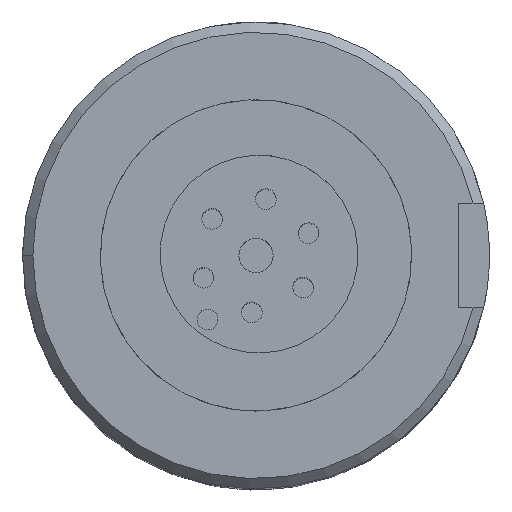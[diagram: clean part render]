
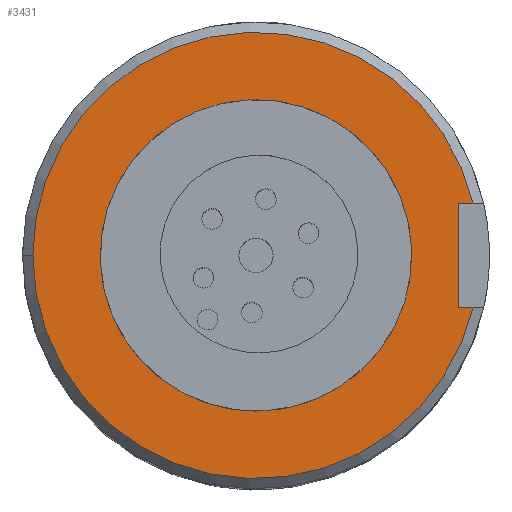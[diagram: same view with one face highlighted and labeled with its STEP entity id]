
A CAD part, top view. The second image highlights one B-rep face of the part: STEP entity #3431.
In plain terms, the highlighted planar face has unit normal (0, 0, 1).
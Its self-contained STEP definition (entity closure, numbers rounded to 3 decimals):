
#19 = CARTESIAN_POINT ( 'NONE',  ( -30., 0., 111. ) ) ;
#63 = CARTESIAN_POINT ( 'NONE',  ( 39., -10., 111. ) ) ;
#166 = DIRECTION ( 'NONE',  ( 1., 0., 0. ) ) ;
#172 = VERTEX_POINT ( 'NONE', #19 ) ;
#187 = DIRECTION ( 'NONE',  ( 0., 0., 1. ) ) ;
#241 = ORIENTED_EDGE ( 'NONE', *, *, #3611, .T. ) ;
#294 = ORIENTED_EDGE ( 'NONE', *, *, #1451, .F. ) ;
#314 = DIRECTION ( 'NONE',  ( 0., 1., 0. ) ) ;
#393 = EDGE_CURVE ( 'NONE', #1418, #3377, #1236, .T. ) ;
#476 = CARTESIAN_POINT ( 'NONE',  ( 0., 0., 111. ) ) ;
#487 = VECTOR ( 'NONE', #2778, 1000. ) ;
#519 = CIRCLE ( 'NONE', #990, 43. ) ;
#584 = ORIENTED_EDGE ( 'NONE', *, *, #1463, .F. ) ;
#720 = CARTESIAN_POINT ( 'NONE',  ( -43., 0., 111. ) ) ;
#724 = CARTESIAN_POINT ( 'NONE',  ( 30., 0., 111. ) ) ;
#842 = ORIENTED_EDGE ( 'NONE', *, *, #1155, .T. ) ;
#874 = VERTEX_POINT ( 'NONE', #3585 ) ;
#884 = FACE_OUTER_BOUND ( 'NONE', #909, .T. ) ;
#909 = EDGE_LOOP ( 'NONE', ( #3503, #842, #241, #3306, #1497 ) ) ;
#917 = CARTESIAN_POINT ( 'NONE',  ( 0., 0., 111. ) ) ;
#985 = AXIS2_PLACEMENT_3D ( 'NONE', #917, #2036, #1212 ) ;
#990 = AXIS2_PLACEMENT_3D ( 'NONE', #476, #1592, #1099 ) ;
#997 = CARTESIAN_POINT ( 'NONE',  ( 0., 0., 111. ) ) ;
#1033 = CARTESIAN_POINT ( 'NONE',  ( 0., 0., 111. ) ) ;
#1089 = DIRECTION ( 'NONE',  ( 0., 0., 1. ) ) ;
#1099 = DIRECTION ( 'NONE',  ( 1., 0., 0. ) ) ;
#1112 = CARTESIAN_POINT ( 'NONE',  ( 0., 0., 111. ) ) ;
#1155 = EDGE_CURVE ( 'NONE', #1728, #874, #2165, .T. ) ;
#1159 = FACE_BOUND ( 'NONE', #3371, .T. ) ;
#1212 = DIRECTION ( 'NONE',  ( 1., 0., 0. ) ) ;
#1236 = CIRCLE ( 'NONE', #1818, 43. ) ;
#1301 = AXIS2_PLACEMENT_3D ( 'NONE', #1033, #187, #3596 ) ;
#1418 = VERTEX_POINT ( 'NONE', #720 ) ;
#1451 = EDGE_CURVE ( 'NONE', #172, #2265, #2688, .T. ) ;
#1463 = EDGE_CURVE ( 'NONE', #2265, #172, #2003, .T. ) ;
#1497 = ORIENTED_EDGE ( 'NONE', *, *, #3333, .F. ) ;
#1592 = DIRECTION ( 'NONE',  ( 0., 0., 1. ) ) ;
#1725 = CARTESIAN_POINT ( 'NONE',  ( 41.821, -10., 111. ) ) ;
#1728 = VERTEX_POINT ( 'NONE', #2192 ) ;
#1816 = DIRECTION ( 'NONE',  ( 0., 0., 1. ) ) ;
#1818 = AXIS2_PLACEMENT_3D ( 'NONE', #997, #1816, #166 ) ;
#1908 = DIRECTION ( 'NONE',  ( 1., 0., 0. ) ) ;
#1951 = CARTESIAN_POINT ( 'NONE',  ( 0., 10., 111. ) ) ;
#1956 = LINE ( 'NONE', #1981, #2500 ) ;
#1981 = CARTESIAN_POINT ( 'NONE',  ( 0., -10., 111. ) ) ;
#2003 = CIRCLE ( 'NONE', #1301, 30. ) ;
#2017 = DIRECTION ( 'NONE',  ( 1., 0., 0. ) ) ;
#2036 = DIRECTION ( 'NONE',  ( 0., 0., 1. ) ) ;
#2165 = LINE ( 'NONE', #1951, #487 ) ;
#2187 = VERTEX_POINT ( 'NONE', #63 ) ;
#2192 = CARTESIAN_POINT ( 'NONE',  ( 39., 10., 111. ) ) ;
#2265 = VERTEX_POINT ( 'NONE', #724 ) ;
#2475 = LINE ( 'NONE', #3594, #3065 ) ;
#2500 = VECTOR ( 'NONE', #2017, 1000. ) ;
#2574 = PLANE ( 'NONE',  #985 ) ;
#2688 = CIRCLE ( 'NONE', #2980, 30. ) ;
#2778 = DIRECTION ( 'NONE',  ( 1., 0., 0. ) ) ;
#2917 = EDGE_CURVE ( 'NONE', #2187, #1728, #2475, .T. ) ;
#2980 = AXIS2_PLACEMENT_3D ( 'NONE', #1112, #1089, #1908 ) ;
#3065 = VECTOR ( 'NONE', #314, 1000. ) ;
#3306 = ORIENTED_EDGE ( 'NONE', *, *, #393, .T. ) ;
#3333 = EDGE_CURVE ( 'NONE', #2187, #3377, #1956, .T. ) ;
#3371 = EDGE_LOOP ( 'NONE', ( #584, #294 ) ) ;
#3377 = VERTEX_POINT ( 'NONE', #1725 ) ;
#3431 = ADVANCED_FACE ( 'NONE', ( #1159, #884 ), #2574, .T. ) ;
#3503 = ORIENTED_EDGE ( 'NONE', *, *, #2917, .T. ) ;
#3585 = CARTESIAN_POINT ( 'NONE',  ( 41.821, 10., 111. ) ) ;
#3594 = CARTESIAN_POINT ( 'NONE',  ( 39., 0., 111. ) ) ;
#3596 = DIRECTION ( 'NONE',  ( 1., 0., 0. ) ) ;
#3611 = EDGE_CURVE ( 'NONE', #874, #1418, #519, .T. ) ;
